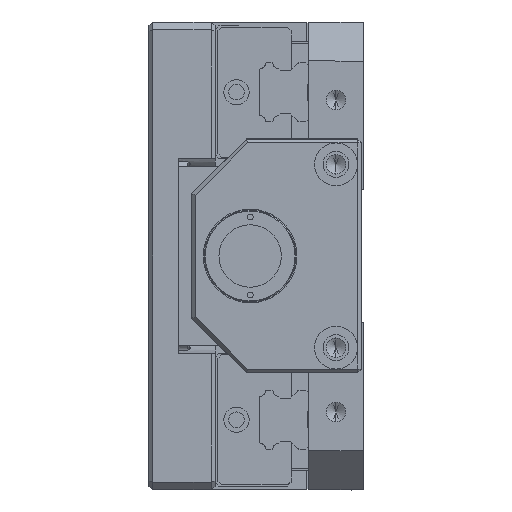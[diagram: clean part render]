
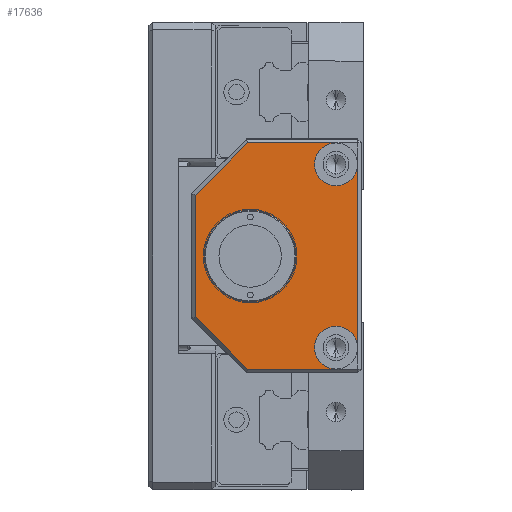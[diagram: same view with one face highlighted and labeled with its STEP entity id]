
A CAD part, left-side view. The second image highlights one B-rep face of the part: STEP entity #17636.
In plain terms, the highlighted planar face has unit normal (-1, 0, 0).
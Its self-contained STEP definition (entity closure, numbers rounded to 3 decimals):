
#488 = VERTEX_POINT ( 'NONE', #9324 ) ;
#1177 = DIRECTION ( 'NONE',  ( -1., 0., 0. ) ) ;
#2432 = LINE ( 'NONE', #67831, #37765 ) ;
#2434 = LINE ( 'NONE', #86406, #81928 ) ;
#3123 = CARTESIAN_POINT ( 'NONE',  ( -212.495, 278.028, 267.562 ) ) ;
#4098 = FACE_OUTER_BOUND ( 'NONE', #12393, .T. ) ;
#4202 = EDGE_CURVE ( 'NONE', #68761, #64319, #81612, .T. ) ;
#4748 = AXIS2_PLACEMENT_3D ( 'NONE', #81962, #82269, #18673 ) ;
#5006 = CARTESIAN_POINT ( 'NONE',  ( -212.495, 266.864, 238.562 ) ) ;
#5488 = CARTESIAN_POINT ( 'NONE',  ( -212.495, 244.278, 291.062 ) ) ;
#6663 = ORIENTED_EDGE ( 'NONE', *, *, #36105, .F. ) ;
#7851 = CARTESIAN_POINT ( 'NONE',  ( -212.495, 254.528, 267.562 ) ) ;
#8288 = DIRECTION ( 'NONE',  ( 0., -1., 0. ) ) ;
#9324 = CARTESIAN_POINT ( 'NONE',  ( -212.495, 238.778, 244.062 ) ) ;
#11418 = DIRECTION ( 'NONE',  ( -1., 0., 0. ) ) ;
#12393 = EDGE_LOOP ( 'NONE', ( #59793, #56466, #6663, #32397, #82518, #34063, #57452, #19316, #77078, #89435 ) ) ;
#12439 = DIRECTION ( 'NONE',  ( 0., -1., 0. ) ) ;
#15327 = VECTOR ( 'NONE', #8288, 1000. ) ;
#15487 = EDGE_CURVE ( 'NONE', #80735, #88153, #44457, .T. ) ;
#15855 = ORIENTED_EDGE ( 'NONE', *, *, #39508, .F. ) ;
#17636 = ADVANCED_FACE ( 'NONE', ( #50352, #4098 ), #42627, .F. ) ;
#18234 = EDGE_CURVE ( 'NONE', #88153, #488, #36512, .T. ) ;
#18673 = DIRECTION ( 'NONE',  ( 0., 1., 0. ) ) ;
#19316 = ORIENTED_EDGE ( 'NONE', *, *, #43335, .F. ) ;
#21141 = VERTEX_POINT ( 'NONE', #3123 ) ;
#21934 = VERTEX_POINT ( 'NONE', #22302 ) ;
#22207 = CARTESIAN_POINT ( 'NONE',  ( -212.495, 266.487, 296.939 ) ) ;
#22302 = CARTESIAN_POINT ( 'NONE',  ( -212.495, 280.278, 251.976 ) ) ;
#24531 = VERTEX_POINT ( 'NONE', #48492 ) ;
#24990 = EDGE_CURVE ( 'NONE', #47390, #21934, #25662, .T. ) ;
#25662 = LINE ( 'NONE', #68430, #76509 ) ;
#29100 = CARTESIAN_POINT ( 'NONE',  ( -212.495, 244.278, 296.562 ) ) ;
#29675 = DIRECTION ( 'NONE',  ( 0., -0.707, 0.707 ) ) ;
#30768 = CIRCLE ( 'NONE', #67414, 11.75 ) ;
#32397 = ORIENTED_EDGE ( 'NONE', *, *, #4202, .F. ) ;
#33252 = CIRCLE ( 'NONE', #36886, 5.5 ) ;
#33820 = CARTESIAN_POINT ( 'NONE',  ( -212.495, 244.278, 244.062 ) ) ;
#34063 = ORIENTED_EDGE ( 'NONE', *, *, #86330, .F. ) ;
#35941 = EDGE_CURVE ( 'NONE', #79519, #24531, #73973, .T. ) ;
#36105 = EDGE_CURVE ( 'NONE', #64319, #80735, #33252, .T. ) ;
#36512 = LINE ( 'NONE', #52857, #75079 ) ;
#36886 = AXIS2_PLACEMENT_3D ( 'NONE', #5488, #90256, #42640 ) ;
#37693 = AXIS2_PLACEMENT_3D ( 'NONE', #83786, #41445, #12439 ) ;
#37765 = VECTOR ( 'NONE', #67234, 1000. ) ;
#39508 = EDGE_CURVE ( 'NONE', #21141, #56527, #78926, .T. ) ;
#41431 = CARTESIAN_POINT ( 'NONE',  ( -212.495, 238.778, 296.562 ) ) ;
#41445 = DIRECTION ( 'NONE',  ( -1., 0., 0. ) ) ;
#42282 = LINE ( 'NONE', #22207, #59896 ) ;
#42312 = CARTESIAN_POINT ( 'NONE',  ( -212.495, 280.278, 283.148 ) ) ;
#42379 = CARTESIAN_POINT ( 'NONE',  ( -212.495, 249.778, 291.062 ) ) ;
#42627 = PLANE ( 'NONE',  #46689 ) ;
#42640 = DIRECTION ( 'NONE',  ( 0., -1., 0. ) ) ;
#43335 = EDGE_CURVE ( 'NONE', #24531, #47390, #2434, .T. ) ;
#44457 = CIRCLE ( 'NONE', #37693, 5.5 ) ;
#45306 = DIRECTION ( 'NONE',  ( 0., 1., 0. ) ) ;
#46689 = AXIS2_PLACEMENT_3D ( 'NONE', #41431, #62999, #77259 ) ;
#46723 = DIRECTION ( 'NONE',  ( 0., -1., 0. ) ) ;
#47011 = DIRECTION ( 'NONE',  ( -1., 0., 0. ) ) ;
#47390 = VERTEX_POINT ( 'NONE', #5006 ) ;
#48492 = CARTESIAN_POINT ( 'NONE',  ( -212.495, 244.278, 238.562 ) ) ;
#50127 = DIRECTION ( 'NONE',  ( 0., 1., 0. ) ) ;
#50352 = FACE_BOUND ( 'NONE', #79521, .T. ) ;
#50445 = CARTESIAN_POINT ( 'NONE',  ( -212.495, 259.528, 296.562 ) ) ;
#50938 = CARTESIAN_POINT ( 'NONE',  ( -212.495, 266.864, 296.562 ) ) ;
#52857 = CARTESIAN_POINT ( 'NONE',  ( -212.495, 238.778, 267.562 ) ) ;
#53591 = EDGE_CURVE ( 'NONE', #78752, #68761, #42282, .T. ) ;
#53624 = CARTESIAN_POINT ( 'NONE',  ( -212.495, 244.278, 244.062 ) ) ;
#55789 = CIRCLE ( 'NONE', #89490, 5.5 ) ;
#56466 = ORIENTED_EDGE ( 'NONE', *, *, #15487, .F. ) ;
#56527 = VERTEX_POINT ( 'NONE', #7851 ) ;
#57452 = ORIENTED_EDGE ( 'NONE', *, *, #24990, .F. ) ;
#58623 = CARTESIAN_POINT ( 'NONE',  ( -212.495, 238.778, 291.062 ) ) ;
#58716 = AXIS2_PLACEMENT_3D ( 'NONE', #33820, #47011, #46723 ) ;
#59793 = ORIENTED_EDGE ( 'NONE', *, *, #18234, .F. ) ;
#59896 = VECTOR ( 'NONE', #29675, 1000. ) ;
#62999 = DIRECTION ( 'NONE',  ( 1., 0., 0. ) ) ;
#64319 = VERTEX_POINT ( 'NONE', #29100 ) ;
#66982 = EDGE_CURVE ( 'NONE', #488, #79519, #55789, .T. ) ;
#67234 = DIRECTION ( 'NONE',  ( 0., 0., 1. ) ) ;
#67414 = AXIS2_PLACEMENT_3D ( 'NONE', #77373, #1177, #50127 ) ;
#67831 = CARTESIAN_POINT ( 'NONE',  ( -212.495, 280.278, 267.562 ) ) ;
#68329 = CARTESIAN_POINT ( 'NONE',  ( -212.495, 249.778, 244.062 ) ) ;
#68430 = CARTESIAN_POINT ( 'NONE',  ( -212.495, 280.655, 252.353 ) ) ;
#68761 = VERTEX_POINT ( 'NONE', #50938 ) ;
#73973 = CIRCLE ( 'NONE', #58716, 5.5 ) ;
#75079 = VECTOR ( 'NONE', #81308, 1000. ) ;
#75272 = DIRECTION ( 'NONE',  ( 0., -1., 0. ) ) ;
#76509 = VECTOR ( 'NONE', #89791, 1000. ) ;
#77078 = ORIENTED_EDGE ( 'NONE', *, *, #35941, .F. ) ;
#77259 = DIRECTION ( 'NONE',  ( 0., 0., -1. ) ) ;
#77373 = CARTESIAN_POINT ( 'NONE',  ( -212.495, 266.278, 267.562 ) ) ;
#78752 = VERTEX_POINT ( 'NONE', #42312 ) ;
#78926 = CIRCLE ( 'NONE', #4748, 11.75 ) ;
#79519 = VERTEX_POINT ( 'NONE', #68329 ) ;
#79521 = EDGE_LOOP ( 'NONE', ( #15855, #82008 ) ) ;
#80735 = VERTEX_POINT ( 'NONE', #42379 ) ;
#81308 = DIRECTION ( 'NONE',  ( 0., 0., -1. ) ) ;
#81612 = LINE ( 'NONE', #50445, #15327 ) ;
#81928 = VECTOR ( 'NONE', #45306, 1000. ) ;
#81962 = CARTESIAN_POINT ( 'NONE',  ( -212.495, 266.278, 267.562 ) ) ;
#82008 = ORIENTED_EDGE ( 'NONE', *, *, #84390, .F. ) ;
#82269 = DIRECTION ( 'NONE',  ( -1., 0., 0. ) ) ;
#82518 = ORIENTED_EDGE ( 'NONE', *, *, #53591, .F. ) ;
#83786 = CARTESIAN_POINT ( 'NONE',  ( -212.495, 244.278, 291.062 ) ) ;
#84390 = EDGE_CURVE ( 'NONE', #56527, #21141, #30768, .T. ) ;
#86330 = EDGE_CURVE ( 'NONE', #21934, #78752, #2432, .T. ) ;
#86406 = CARTESIAN_POINT ( 'NONE',  ( -212.495, 259.528, 238.562 ) ) ;
#88153 = VERTEX_POINT ( 'NONE', #58623 ) ;
#89435 = ORIENTED_EDGE ( 'NONE', *, *, #66982, .F. ) ;
#89490 = AXIS2_PLACEMENT_3D ( 'NONE', #53624, #11418, #75272 ) ;
#89791 = DIRECTION ( 'NONE',  ( 0., 0.707, 0.707 ) ) ;
#90256 = DIRECTION ( 'NONE',  ( -1., 0., 0. ) ) ;
